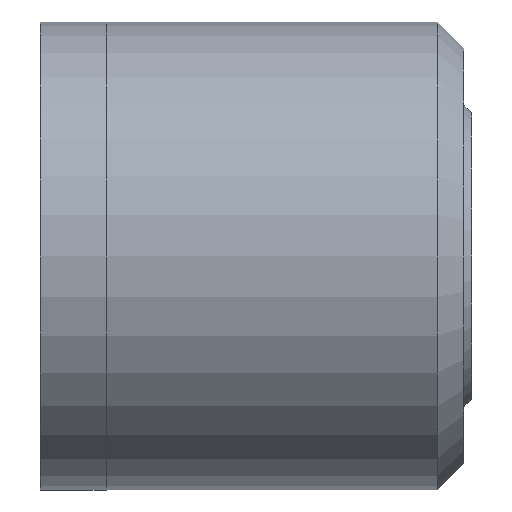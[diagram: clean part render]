
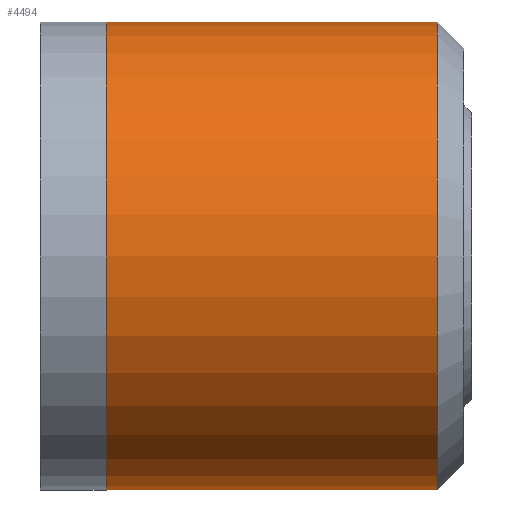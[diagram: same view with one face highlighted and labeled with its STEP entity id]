
A CAD part, front view. The second image highlights one B-rep face of the part: STEP entity #4494.
In plain terms, the highlighted cylindrical face has radius 89 mm (diameter 178 mm), a partial arc.
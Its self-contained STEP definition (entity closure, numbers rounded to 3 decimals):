
#110 = CARTESIAN_POINT ( 'NONE',  ( 187., 150., -239. ) ) ;
#873 = EDGE_LOOP ( 'NONE', ( #15268, #6650, #7299, #17085 ) ) ;
#1526 = AXIS2_PLACEMENT_3D ( 'NONE', #4958, #10238, #15477 ) ;
#1889 = CIRCLE ( 'NONE', #11567, 89. ) ;
#2497 = LINE ( 'NONE', #7772, #10667 ) ;
#2860 = AXIS2_PLACEMENT_3D ( 'NONE', #9730, #14983, #3150 ) ;
#2923 = CARTESIAN_POINT ( 'NONE',  ( 197., 150., -61. ) ) ;
#2946 = VECTOR ( 'NONE', #8191, 1000. ) ;
#3150 = DIRECTION ( 'NONE',  ( 0., 0., 1. ) ) ;
#3212 = VERTEX_POINT ( 'NONE', #5092 ) ;
#4353 = DIRECTION ( 'NONE',  ( -1., 0., 0. ) ) ;
#4494 = ADVANCED_FACE ( 'NONE', ( #6961 ), #12222, .T. ) ;
#4958 = CARTESIAN_POINT ( 'NONE',  ( 61., 150., -150. ) ) ;
#5092 = CARTESIAN_POINT ( 'NONE',  ( 61., 150., -61. ) ) ;
#5533 = EDGE_CURVE ( 'NONE', #16943, #3212, #14763, .T. ) ;
#6650 = ORIENTED_EDGE ( 'NONE', *, *, #11830, .T. ) ;
#6961 = FACE_OUTER_BOUND ( 'NONE', #873, .T. ) ;
#7299 = ORIENTED_EDGE ( 'NONE', *, *, #5533, .T. ) ;
#7772 = CARTESIAN_POINT ( 'NONE',  ( 197., 150., -239. ) ) ;
#7782 = EDGE_CURVE ( 'NONE', #10049, #13671, #2497, .T. ) ;
#8191 = DIRECTION ( 'NONE',  ( -1., 0., 0. ) ) ;
#9006 = CIRCLE ( 'NONE', #1526, 89. ) ;
#9624 = DIRECTION ( 'NONE',  ( 0., 0., -1. ) ) ;
#9730 = CARTESIAN_POINT ( 'NONE',  ( 197., 150., -150. ) ) ;
#10049 = VERTEX_POINT ( 'NONE', #110 ) ;
#10238 = DIRECTION ( 'NONE',  ( 1., 0., 0. ) ) ;
#10667 = VECTOR ( 'NONE', #13063, 1000. ) ;
#11567 = AXIS2_PLACEMENT_3D ( 'NONE', #16166, #4353, #9624 ) ;
#11830 = EDGE_CURVE ( 'NONE', #10049, #16943, #1889, .T. ) ;
#12222 = CYLINDRICAL_SURFACE ( 'NONE', #2860, 89. ) ;
#13063 = DIRECTION ( 'NONE',  ( -1., 0., 0. ) ) ;
#13526 = EDGE_CURVE ( 'NONE', #3212, #13671, #9006, .T. ) ;
#13671 = VERTEX_POINT ( 'NONE', #16217 ) ;
#14763 = LINE ( 'NONE', #2923, #2946 ) ;
#14983 = DIRECTION ( 'NONE',  ( -1., 0., 0. ) ) ;
#15044 = CARTESIAN_POINT ( 'NONE',  ( 187., 150., -61. ) ) ;
#15268 = ORIENTED_EDGE ( 'NONE', *, *, #7782, .F. ) ;
#15477 = DIRECTION ( 'NONE',  ( 0., 0., -1. ) ) ;
#16166 = CARTESIAN_POINT ( 'NONE',  ( 187., 150., -150. ) ) ;
#16217 = CARTESIAN_POINT ( 'NONE',  ( 61., 150., -239. ) ) ;
#16943 = VERTEX_POINT ( 'NONE', #15044 ) ;
#17085 = ORIENTED_EDGE ( 'NONE', *, *, #13526, .T. ) ;
